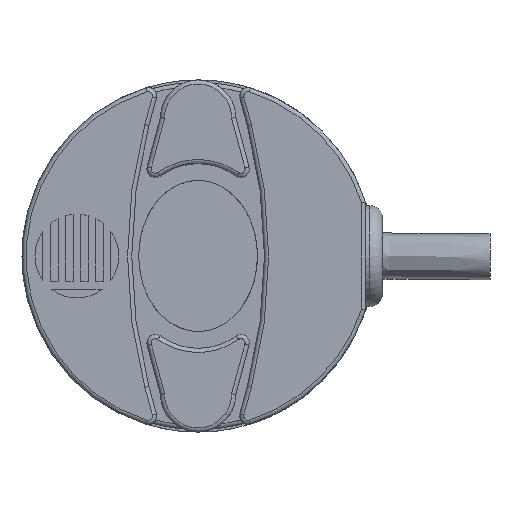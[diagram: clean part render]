
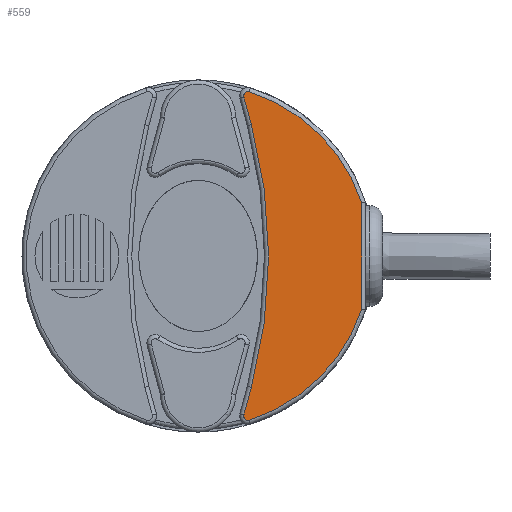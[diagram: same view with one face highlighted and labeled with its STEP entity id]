
A CAD part, left-side view. The second image highlights one B-rep face of the part: STEP entity #559.
In plain terms, the highlighted planar face has unit normal (-1, 0, 0).
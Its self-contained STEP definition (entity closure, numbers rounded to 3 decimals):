
#559 = ADVANCED_FACE( '', ( #1311 ), #1312, .T. );
#1311 = FACE_OUTER_BOUND( '', #3485, .T. );
#1312 = PLANE( '', #3486 );
#3485 = EDGE_LOOP( '', ( #5679, #5680, #5681, #5682, #5683, #5684, #5685, #5686 ) );
#3486 = AXIS2_PLACEMENT_3D( '', #5687, #5688, #5689 );
#5679 = ORIENTED_EDGE( '', *, *, #7428, .T. );
#5680 = ORIENTED_EDGE( '', *, *, #7604, .T. );
#5681 = ORIENTED_EDGE( '', *, *, #7605, .T. );
#5682 = ORIENTED_EDGE( '', *, *, #7606, .T. );
#5683 = ORIENTED_EDGE( '', *, *, #7607, .T. );
#5684 = ORIENTED_EDGE( '', *, *, #7138, .T. );
#5685 = ORIENTED_EDGE( '', *, *, #7608, .T. );
#5686 = ORIENTED_EDGE( '', *, *, #7609, .T. );
#5687 = CARTESIAN_POINT( '', ( -7.4, -5.946, -19.096 ) );
#5688 = DIRECTION( '', ( -1., 0., 0. ) );
#5689 = DIRECTION( '', ( 0., 1., 0. ) );
#7138 = EDGE_CURVE( '', #8028, #8032, #8034, .T. );
#7428 = EDGE_CURVE( '', #8520, #8525, #8527, .T. );
#7604 = EDGE_CURVE( '', #8525, #8799, #8800, .T. );
#7605 = EDGE_CURVE( '', #8799, #8801, #8802, .T. );
#7606 = EDGE_CURVE( '', #8801, #8803, #8804, .T. );
#7607 = EDGE_CURVE( '', #8803, #8028, #8805, .T. );
#7608 = EDGE_CURVE( '', #8032, #8806, #8807, .T. );
#7609 = EDGE_CURVE( '', #8806, #8520, #8808, .T. );
#8028 = VERTEX_POINT( '', #9325 );
#8032 = VERTEX_POINT( '', #9329 );
#8034 = CIRCLE( '', #9331, 60.5 );
#8520 = VERTEX_POINT( '', #10839 );
#8525 = VERTEX_POINT( '', #10844 );
#8527 = CIRCLE( '', #10861, 20.5 );
#8799 = VERTEX_POINT( '', #12119 );
#8800 = LINE( '', #12120, #12121 );
#8801 = VERTEX_POINT( '', #12122 );
#8802 = CIRCLE( '', #12123, 20.5 );
#8803 = VERTEX_POINT( '', #12124 );
#8804 = CIRCLE( '', #12125, 0.5 );
#8805 = LINE( '', #12126, #12127 );
#8806 = VERTEX_POINT( '', #12128 );
#8807 = LINE( '', #12129, #12130 );
#8808 = CIRCLE( '', #12131, 0.5 );
#9325 = CARTESIAN_POINT( '', ( -7.4, -6.349, 15.659 ) );
#9329 = CARTESIAN_POINT( '', ( -7.4, -6.349, -15.659 ) );
#9331 = AXIS2_PLACEMENT_3D( '', #13595, #13596, #13597 );
#10839 = CARTESIAN_POINT( '', ( -7.4, -6.094, -19.573 ) );
#10844 = CARTESIAN_POINT( '', ( -7.4, -19.5, -6.325 ) );
#10861 = AXIS2_PLACEMENT_3D( '', #13963, #13964, #13965 );
#12119 = CARTESIAN_POINT( '', ( -7.4, -19.5, 6.325 ) );
#12120 = CARTESIAN_POINT( '', ( -7.4, -19.5, -19.096 ) );
#12121 = VECTOR( '', #14167, 1000. );
#12122 = CARTESIAN_POINT( '', ( -7.4, -6.094, 19.573 ) );
#12123 = AXIS2_PLACEMENT_3D( '', #14168, #14169, #14170 );
#12124 = CARTESIAN_POINT( '', ( -7.4, -5.463, 18.966 ) );
#12125 = AXIS2_PLACEMENT_3D( '', #14171, #14172, #14173 );
#12126 = CARTESIAN_POINT( '', ( -7.4, -6.349, 15.659 ) );
#12127 = VECTOR( '', #14174, 1000. );
#12128 = CARTESIAN_POINT( '', ( -7.4, -5.463, -18.966 ) );
#12129 = CARTESIAN_POINT( '', ( -7.4, -5.463, -18.966 ) );
#12130 = VECTOR( '', #14175, 1000. );
#12131 = AXIS2_PLACEMENT_3D( '', #14176, #14177, #14178 );
#13595 = CARTESIAN_POINT( '', ( -7.4, 52.09, 0. ) );
#13596 = DIRECTION( '', ( 1., 0., 0. ) );
#13597 = DIRECTION( '', ( 0., -1., 0. ) );
#13963 = CARTESIAN_POINT( '', ( -7.4, 0., 0. ) );
#13964 = DIRECTION( '', ( -1., 0., 0. ) );
#13965 = DIRECTION( '', ( 0., -1., 0. ) );
#14167 = DIRECTION( '', ( 0., 0., 1. ) );
#14168 = CARTESIAN_POINT( '', ( -7.4, 0., 0. ) );
#14169 = DIRECTION( '', ( -1., 0., 0. ) );
#14170 = DIRECTION( '', ( 0., -1., 0. ) );
#14171 = CARTESIAN_POINT( '', ( -7.4, -5.946, 19.096 ) );
#14172 = DIRECTION( '', ( -1., 0., 0. ) );
#14173 = DIRECTION( '', ( 0., -1., 0. ) );
#14174 = DIRECTION( '', ( 0., -0.259, -0.966 ) );
#14175 = DIRECTION( '', ( 0., 0.259, -0.966 ) );
#14176 = CARTESIAN_POINT( '', ( -7.4, -5.946, -19.096 ) );
#14177 = DIRECTION( '', ( -1., 0., 0. ) );
#14178 = DIRECTION( '', ( 0., -1., 0. ) );
